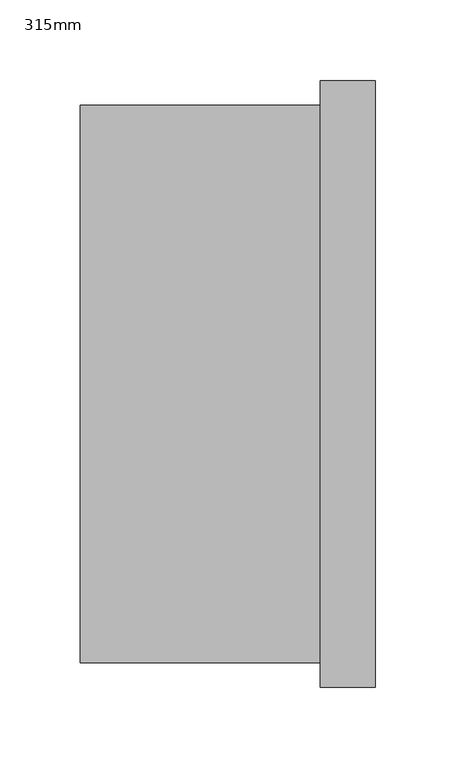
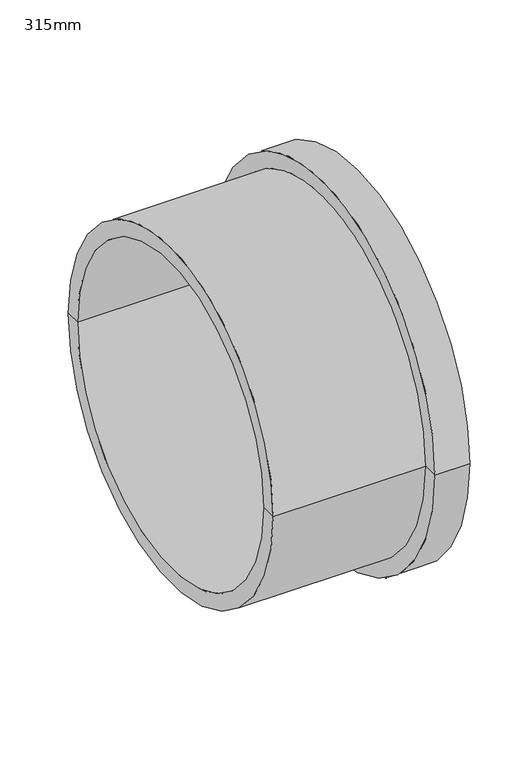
"""IFC4 building model written with IfcOpenShell, lengths in millimetres: pipe fitting geometry, Durapipe_PipeFitting_PVC_StubFlange : 315mm."""

from ifc_helpers import new_model, si_unit, frame, origin, place, context, project, spatial, polyline, circle_curve, source, transform, mapped, element, save
from ifc_brep_helpers import plane_surface, cylinder_surface, revolved_surface, advanced_brep


def pipe_fitting_315mm_f2f851d3(model_context):
    return source(origin(), model_context, "Body", "AdvancedBrep", [
        advanced_brep(
        [(91.5, -188.5, 0.0), (91.5, 188.5, 0.0), (91.5, 185.0, 0.0), (91.5, -185.0, 0.0), (91.5, 140.0, 0.0), (91.5, -140.0, 0.0), (91.5, -181.2720779, 0.0), (91.5, 181.2720779, 0.0), (57.5, -188.5, 0.0), (57.5, 188.5, 0.0), (57.5, -173.0, 0.0), (57.5, 173.0, 0.0), (-91.5, -173.0, 0.0), (-91.5, 173.0, 0.0), (-91.5, -157.5, 0.0), (-91.5, 157.5, 0.0), (73.5, 140.0, 0.0), (73.5, -140.0, 0.0), (73.5, -157.5, 0.0), (73.5, 157.5, 0.0), (91.5, 182.5147186, 0.0), (90.0, 181.8933983, 0.0), (90.0, -181.8933983, 0.0), (91.5, -182.5147186, 0.0), (90.0, -183.136039, 0.0), (90.0, 183.136039, 0.0), (91.5, -183.7573593, 0.0), (91.5, 183.7573593, 0.0), (90.0, -184.3786797, 0.0), (90.0, 184.3786797, 0.0)],
        [
            (0, 1, circle_curve(frame((91.5, 0.0, 0.0), z_axis=(1.0, 0.0, 0.0), x_axis=(0.0, 1.0, 0.0)), 188.5)),
            (1, 2),
            (2, 3, circle_curve(frame((91.5, 0.0, 0.0), z_axis=(-1.0, 0.0, 0.0), x_axis=(0.0, -1.0, 0.0)), 185.0)),
            (3, 0),
            (4, 5, circle_curve(frame((91.5, 0.0, 0.0), z_axis=(-1.0, 0.0, 0.0), x_axis=(0.0, 1.0, 0.0)), 140.0)),
            (5, 6),
            (6, 7, circle_curve(frame((91.5, 0.0, 0.0), z_axis=(1.0, 0.0, 0.0), x_axis=(0.0, -1.0, 0.0)), 181.2720779)),
            (7, 4),
            (1, 0, circle_curve(frame((91.5, 0.0, 0.0), z_axis=(1.0, 0.0, 0.0), x_axis=(0.0, 1.0, 0.0)), 188.5)),
            (3, 2, circle_curve(frame((91.5, 0.0, 0.0), z_axis=(-1.0, 0.0, 0.0), x_axis=(0.0, 1.0, 0.0)), 185.0)),
            (5, 4, circle_curve(frame((91.5, 0.0, 0.0), z_axis=(-1.0, 0.0, 0.0), x_axis=(0.0, 1.0, 0.0)), 140.0)),
            (7, 6, circle_curve(frame((91.5, 0.0, 0.0), z_axis=(1.0, 0.0, 0.0), x_axis=(0.0, 1.0, 0.0)), 181.2720779)),
            (0, 8),
            (8, 9, circle_curve(frame((57.5, 0.0, 0.0), z_axis=(1.0, 0.0, 0.0), x_axis=(0.0, 1.0, 0.0)), 188.5)),
            (9, 1),
            (9, 8, circle_curve(frame((57.5, 0.0, 0.0), z_axis=(1.0, 0.0, 0.0), x_axis=(0.0, 1.0, 0.0)), 188.5)),
            (8, 10),
            (10, 11, circle_curve(frame((57.5, 0.0, 0.0), z_axis=(1.0, 0.0, 0.0), x_axis=(0.0, 1.0, 0.0)), 173.0)),
            (11, 9),
            (11, 10, circle_curve(frame((57.5, 0.0, 0.0), z_axis=(1.0, 0.0, 0.0), x_axis=(0.0, 1.0, 0.0)), 173.0)),
            (10, 12),
            (12, 13, circle_curve(frame((-91.5, 0.0, 0.0), z_axis=(1.0, 0.0, 0.0), x_axis=(0.0, 1.0, 0.0)), 173.0)),
            (13, 11),
            (13, 12, circle_curve(frame((-91.5, 0.0, 0.0), z_axis=(1.0, 0.0, 0.0), x_axis=(0.0, 1.0, 0.0)), 173.0)),
            (12, 14),
            (14, 15, circle_curve(frame((-91.5, 0.0, 0.0), z_axis=(1.0, 0.0, 0.0), x_axis=(0.0, 1.0, 0.0)), 157.5)),
            (15, 13),
            (15, 14, circle_curve(frame((-91.5, 0.0, 0.0), z_axis=(1.0, 0.0, 0.0), x_axis=(0.0, 1.0, 0.0)), 157.5)),
            (4, 16),
            (16, 17, circle_curve(frame((73.5, 0.0, 0.0), z_axis=(-1.0, 0.0, 0.0), x_axis=(0.0, 1.0, 0.0)), 140.0)),
            (17, 5),
            (17, 16, circle_curve(frame((73.5, 0.0, 0.0), z_axis=(-1.0, 0.0, 0.0), x_axis=(0.0, 1.0, 0.0)), 140.0)),
            (14, 18),
            (18, 19, circle_curve(frame((73.5, 0.0, 0.0), z_axis=(1.0, 0.0, 0.0), x_axis=(0.0, 1.0, 0.0)), 157.5)),
            (19, 15),
            (19, 18, circle_curve(frame((73.5, 0.0, 0.0), z_axis=(1.0, 0.0, 0.0), x_axis=(0.0, 1.0, 0.0)), 157.5)),
            (18, 17),
            (16, 19),
            (20, 21),
            (21, 22, circle_curve(frame((90.0, 0.0, 0.0), z_axis=(-1.0, 0.0, 0.0), x_axis=(0.0, -1.0, 0.0)), 181.8933983)),
            (22, 23),
            (23, 20, circle_curve(frame((91.5, 0.0, 0.0), z_axis=(1.0, 0.0, 0.0), x_axis=(0.0, -1.0, 0.0)), 182.5147186)),
            (23, 24),
            (24, 25, circle_curve(frame((90.0, 0.0, 0.0), z_axis=(1.0, 0.0, 0.0), x_axis=(0.0, -1.0, 0.0)), 183.136039)),
            (25, 20),
            (24, 26),
            (26, 27, circle_curve(frame((91.5, 0.0, 0.0), z_axis=(1.0, 0.0, 0.0), x_axis=(0.0, -1.0, 0.0)), 183.7573593)),
            (27, 25),
            (26, 28),
            (28, 29, circle_curve(frame((90.0, 0.0, 0.0), z_axis=(1.0, 0.0, 0.0), x_axis=(0.0, -1.0, 0.0)), 184.3786797)),
            (29, 27),
            (28, 3),
            (2, 29),
            (21, 7),
            (6, 22),
            (20, 23, circle_curve(frame((91.5, 0.0, 0.0), z_axis=(1.0, 0.0, 0.0), x_axis=(0.0, 1.0, 0.0)), 182.5147186)),
            (22, 21, circle_curve(frame((90.0, 0.0, 0.0), z_axis=(-1.0, 0.0, 0.0), x_axis=(0.0, 1.0, 0.0)), 181.8933983)),
            (25, 24, circle_curve(frame((90.0, 0.0, 0.0), z_axis=(1.0, 0.0, 0.0), x_axis=(0.0, 1.0, 0.0)), 183.136039)),
            (27, 26, circle_curve(frame((91.5, 0.0, 0.0), z_axis=(1.0, 0.0, 0.0), x_axis=(0.0, 1.0, 0.0)), 183.7573593)),
            (29, 28, circle_curve(frame((90.0, 0.0, 0.0), z_axis=(1.0, 0.0, 0.0), x_axis=(0.0, 1.0, 0.0)), 184.3786797)),
        ],
        [
            plane_surface(frame((91.5, 0.0, 0.0), z_axis=(1.0, 0.0, 0.0), x_axis=(0.0, 1.0, 0.0))),
            cylinder_surface(frame((94.6035546, 0.0, 0.0), z_axis=(-1.0, 0.0, 0.0), x_axis=(0.0, 1.0, 0.0)), 188.5),
            plane_surface(frame((57.5, 0.0, 0.0), z_axis=(-1.0, 0.0, 0.0), x_axis=(0.0, 1.0, 0.0))),
            cylinder_surface(frame((94.6035546, 0.0, 0.0), z_axis=(-1.0, 0.0, 0.0), x_axis=(0.0, 1.0, 0.0)), 173.0),
            plane_surface(frame((-91.5, 0.0, 0.0), z_axis=(-1.0, 0.0, 0.0), x_axis=(0.0, 1.0, 0.0))),
            revolved_surface(polyline([(73.5, 140.0, 0.0), (91.5, 140.0, 0.0)]), (94.6035546, 0.0, 0.0), (-1.0, 0.0, 0.0)),
            revolved_surface(polyline([(-91.5, 157.5, 0.0), (73.50000000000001, 157.5, 0.0)]), (-93.3250714, 0.0, 0.0), (-1.0, 0.0, 0.0)),
            plane_surface(frame((73.5, 0.0, 0.0), z_axis=(-1.0, 0.0, 0.0), x_axis=(0.0, 1.0, 0.0))),
            revolved_surface(polyline([(91.5, -182.5147186, 0.0), (90.0, -181.8933983, 0.0)]), (91.5, 0.0, 0.0), (1.0, 0.0, 0.0)),
            revolved_surface(polyline([(90.0, -183.136039, 0.0), (91.5, -182.5147186, 0.0)]), (91.5, 0.0, 0.0), (1.0, 0.0, 0.0)),
            revolved_surface(polyline([(91.5, -183.7573593, 0.0), (90.0, -183.136039, 0.0)]), (91.5, 0.0, 0.0), (1.0, 0.0, 0.0)),
            revolved_surface(polyline([(90.0, -184.3786797, 0.0), (91.5, -183.7573593, 0.0)]), (91.5, 0.0, 0.0), (1.0, 0.0, 0.0)),
            revolved_surface(polyline([(91.5, -185.0, 0.0), (90.0, -184.3786797, 0.0)]), (91.5, 0.0, 0.0), (1.0, 0.0, 0.0)),
            revolved_surface(polyline([(90.0, -181.8933983, 0.0), (91.5, -181.2720779, 0.0)]), (91.5, 0.0, 0.0), (1.0, 0.0, 0.0)),
            revolved_surface(polyline([(91.5, 182.5147186, 0.0), (90.0, 181.8933983, 0.0)]), (91.5, 0.0, 0.0), (1.0, 0.0, 0.0)),
            revolved_surface(polyline([(90.0, 183.136039, 0.0), (91.5, 182.5147186, 0.0)]), (91.5, 0.0, 0.0), (1.0, 0.0, 0.0)),
            revolved_surface(polyline([(91.5, 183.7573593, 0.0), (90.0, 183.136039, 0.0)]), (91.5, 0.0, 0.0), (1.0, 0.0, 0.0)),
            revolved_surface(polyline([(90.0, 184.3786797, 0.0), (91.5, 183.7573593, 0.0)]), (91.5, 0.0, 0.0), (1.0, 0.0, 0.0)),
            revolved_surface(polyline([(91.5, 185.0, 0.0), (90.0, 184.3786797, 0.0)]), (91.5, 0.0, 0.0), (1.0, 0.0, 0.0)),
            revolved_surface(polyline([(90.0, 181.8933983, 0.0), (91.5, 181.2720779, 0.0)]), (91.5, 0.0, 0.0), (1.0, 0.0, 0.0)),
        ],
        [
            (0, [[1, 2, 3, 4]]),
            (0, [[5, 6, 7, 8]]),
            (0, [[9, -4, 10, -2]]),
            (0, [[11, -8, 12, -6]]),
            (1, [[-1, 13, 14, 15]]),
            (1, [[-9, -15, 16, -13]]),
            (2, [[-14, 17, 18, 19]]),
            (2, [[-16, -19, 20, -17]]),
            (3, [[-18, 21, 22, 23]]),
            (3, [[-20, -23, 24, -21]]),
            (4, [[-22, 25, 26, 27]]),
            (4, [[-24, -27, 28, -25]]),
            (5, [[-5, 29, 30, 31]]),
            (5, [[-11, -31, 32, -29]]),
            (6, [[33, 34, 35, -26]]),
            (6, [[-33, -28, -35, 36]]),
            (7, [[-34, 37, -30, 38]]),
            (7, [[-36, -38, -32, -37]]),
            (8, [[39, 40, 41, 42]]),
            (9, [[-42, 43, 44, 45]]),
            (10, [[-44, 46, 47, 48]]),
            (11, [[-47, 49, 50, 51]]),
            (12, [[-50, 52, -3, 53]]),
            (13, [[-40, 54, -7, 55]]),
            (14, [[-39, 56, -41, 57]]),
            (15, [[-45, 58, -43, -56]]),
            (16, [[-48, 59, -46, -58]]),
            (17, [[-51, 60, -49, -59]]),
            (18, [[-53, -10, -52, -60]]),
            (19, [[-54, -57, -55, -12]]),
        ],
    ),
    ])


if __name__ == "__main__":
    model = new_model("IFC4")
    model_context = context("Model", 3, world=origin())
    ifc_project = project(units=[si_unit("LENGTHUNIT", "METRE", prefix="MILLI")], contexts=[model_context])
    site = spatial("IfcSite", under=ifc_project)
    building = spatial("IfcBuilding", under=site)
    placement = place(None, origin())
    pipe_fitting_315mm_shape = pipe_fitting_315mm_f2f851d3(model_context)
    element("IfcPipeFitting", 1, ObjectType="Durapipe_PipeFitting_PVC_StubFlange : 315mm", at=placement, inside=building, context=model_context, shape_type="MappedRepresentation", body=[
        mapped(pipe_fitting_315mm_shape, transform((0.0, 0.0, 0.0), x_axis=(1.0, 0.0, 0.0), y_axis=(0.0, 1.0, 0.0), z_axis=(0.0, 0.0, 1.0))),
    ])
    save(model, "model.ifc")
